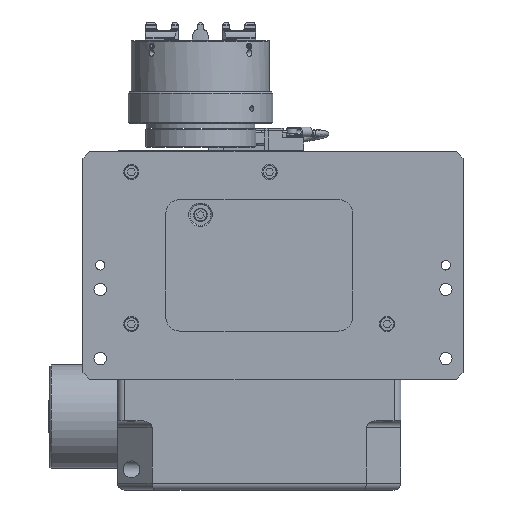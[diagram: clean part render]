
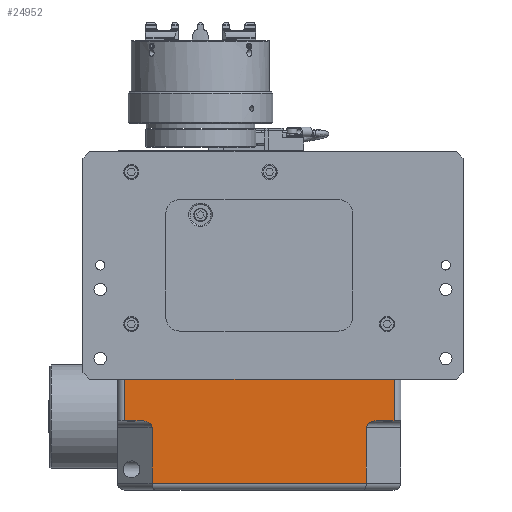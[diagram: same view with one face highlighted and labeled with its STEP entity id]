
A CAD part, front view. The second image highlights one B-rep face of the part: STEP entity #24952.
In plain terms, the highlighted planar face has unit normal (0, -1, 0).
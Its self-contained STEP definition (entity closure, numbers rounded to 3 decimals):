
#42 = LINE ( 'NONE', #56063, #55410 ) ;
#90 = DIRECTION ( 'NONE',  ( 0., 0., -1. ) ) ;
#103 = CARTESIAN_POINT ( 'NONE',  ( -42.071, -55., -195. ) ) ;
#984 = FACE_OUTER_BOUND ( 'NONE', #20038, .T. ) ;
#2949 = ORIENTED_EDGE ( 'NONE', *, *, #16123, .T. ) ;
#3165 = EDGE_CURVE ( 'NONE', #23919, #14636, #13870, .T. ) ;
#4286 = VECTOR ( 'NONE', #58955, 1000. ) ;
#4313 = CARTESIAN_POINT ( 'NONE',  ( 140., -55., -195. ) ) ;
#5710 = VERTEX_POINT ( 'NONE', #4313 ) ;
#6734 = CARTESIAN_POINT ( 'NONE',  ( -55., -55., -150. ) ) ;
#7346 = CARTESIAN_POINT ( 'NONE',  ( 122.929, -55., -195. ) ) ;
#7634 = EDGE_CURVE ( 'NONE', #15594, #55850, #22872, .T. ) ;
#8209 = DIRECTION ( 'NONE',  ( 0., 0., 1. ) ) ;
#8809 = VECTOR ( 'NONE', #8209, 1000. ) ;
#9905 = CARTESIAN_POINT ( 'NONE',  ( 120., -55., -240. ) ) ;
#10388 = VECTOR ( 'NONE', #34916, 1000. ) ;
#11972 = CARTESIAN_POINT ( 'NONE',  ( 127.071, -55., -195. ) ) ;
#12553 = CARTESIAN_POINT ( 'NONE',  ( 140., -55., -245. ) ) ;
#13870 = LINE ( 'NONE', #37576, #32929 ) ;
#13919 = EDGE_CURVE ( 'NONE', #21417, #44140, #40954, .T. ) ;
#14636 = VERTEX_POINT ( 'NONE', #43134 ) ;
#15490 = CARTESIAN_POINT ( 'NONE',  ( -35., -55., -197.071 ) ) ;
#15594 = VERTEX_POINT ( 'NONE', #18529 ) ;
#15687 = CARTESIAN_POINT ( 'NONE',  ( 120., -55., -200. ) ) ;
#16123 = EDGE_CURVE ( 'NONE', #5710, #23089, #45799, .T. ) ;
#17244 = CARTESIAN_POINT ( 'NONE',  ( -35., -55., -195. ) ) ;
#17364 = CARTESIAN_POINT ( 'NONE',  ( 120., -55., -195. ) ) ;
#18529 = CARTESIAN_POINT ( 'NONE',  ( 120., -55., -200. ) ) ;
#19203 = CARTESIAN_POINT ( 'NONE',  ( -37.929, -55., -195. ) ) ;
#19531 = ORIENTED_EDGE ( 'NONE', *, *, #3165, .T. ) ;
#20038 = EDGE_LOOP ( 'NONE', ( #32801, #49469, #52068, #33354, #42680, #2949, #55186, #19531, #24113, #59101 ) ) ;
#20050 = EDGE_CURVE ( 'NONE', #44140, #44829, #42564, .T. ) ;
#21417 = VERTEX_POINT ( 'NONE', #34083 ) ;
#21868 = VECTOR ( 'NONE', #37935, 1000. ) ;
#21949 = VECTOR ( 'NONE', #49560, 1000. ) ;
#22872 =( BOUNDED_CURVE ( )  B_SPLINE_CURVE ( 3, ( #15687, #54141, #7346, #11972 ),
 .UNSPECIFIED., .F., .F. ) 
 B_SPLINE_CURVE_WITH_KNOTS ( ( 4, 4 ),
 ( 0., 1.571 ),
 .UNSPECIFIED. ) 
 CURVE ( )  GEOMETRIC_REPRESENTATION_ITEM ( )  RATIONAL_B_SPLINE_CURVE ( ( 1., 0.805, 0.805, 1. ) ) 
 REPRESENTATION_ITEM ( '' )  );
#23089 = VERTEX_POINT ( 'NONE', #35222 ) ;
#23919 = VERTEX_POINT ( 'NONE', #6734 ) ;
#24113 = ORIENTED_EDGE ( 'NONE', *, *, #50378, .F. ) ;
#24952 = ADVANCED_FACE ( 'NONE', ( #984 ), #38259, .F. ) ;
#26702 = DIRECTION ( 'NONE',  ( -1., 0., 0. ) ) ;
#32425 = VERTEX_POINT ( 'NONE', #52788 ) ;
#32801 = ORIENTED_EDGE ( 'NONE', *, *, #13919, .T. ) ;
#32929 = VECTOR ( 'NONE', #42216, 1000. ) ;
#33354 = ORIENTED_EDGE ( 'NONE', *, *, #7634, .T. ) ;
#34083 = CARTESIAN_POINT ( 'NONE',  ( -35., -55., -200. ) ) ;
#34916 = DIRECTION ( 'NONE',  ( 0., 0., -1. ) ) ;
#35222 = CARTESIAN_POINT ( 'NONE',  ( 140., -55., -150. ) ) ;
#35844 = VECTOR ( 'NONE', #26702, 1000. ) ;
#37576 = CARTESIAN_POINT ( 'NONE',  ( -55., -55., -245. ) ) ;
#37664 = CARTESIAN_POINT ( 'NONE',  ( -35., -55., -200. ) ) ;
#37935 = DIRECTION ( 'NONE',  ( 1., 0., 0. ) ) ;
#38259 = PLANE ( 'NONE',  #52139 ) ;
#40954 = LINE ( 'NONE', #17244, #21949 ) ;
#41436 = CARTESIAN_POINT ( 'NONE',  ( 127.071, -55., -195. ) ) ;
#42216 = DIRECTION ( 'NONE',  ( 0., 0., -1. ) ) ;
#42564 = LINE ( 'NONE', #9905, #21868 ) ;
#42680 = ORIENTED_EDGE ( 'NONE', *, *, #59713, .F. ) ;
#43134 = CARTESIAN_POINT ( 'NONE',  ( -55., -55., -195. ) ) ;
#43929 =( BOUNDED_CURVE ( )  B_SPLINE_CURVE ( 3, ( #103, #19203, #15490, #37664 ),
 .UNSPECIFIED., .F., .F. ) 
 B_SPLINE_CURVE_WITH_KNOTS ( ( 4, 4 ),
 ( 4.712, 6.283 ),
 .UNSPECIFIED. ) 
 CURVE ( )  GEOMETRIC_REPRESENTATION_ITEM ( )  RATIONAL_B_SPLINE_CURVE ( ( 1., 0.805, 0.805, 1. ) ) 
 REPRESENTATION_ITEM ( '' )  );
#44140 = VERTEX_POINT ( 'NONE', #58586 ) ;
#44829 = VERTEX_POINT ( 'NONE', #59214 ) ;
#45053 = EDGE_CURVE ( 'NONE', #32425, #21417, #43929, .T. ) ;
#45799 = LINE ( 'NONE', #12553, #8809 ) ;
#46103 = LINE ( 'NONE', #55021, #35844 ) ;
#46862 = DIRECTION ( 'NONE',  ( -1., 0., 0. ) ) ;
#47199 = DIRECTION ( 'NONE',  ( 0., 1., 0. ) ) ;
#49469 = ORIENTED_EDGE ( 'NONE', *, *, #20050, .T. ) ;
#49560 = DIRECTION ( 'NONE',  ( 0., 0., -1. ) ) ;
#49679 = LINE ( 'NONE', #17364, #10388 ) ;
#49938 = EDGE_CURVE ( 'NONE', #23089, #23919, #42, .T. ) ;
#50378 = EDGE_CURVE ( 'NONE', #32425, #14636, #59251, .T. ) ;
#52068 = ORIENTED_EDGE ( 'NONE', *, *, #52430, .F. ) ;
#52139 = AXIS2_PLACEMENT_3D ( 'NONE', #57029, #47199, #90 ) ;
#52430 = EDGE_CURVE ( 'NONE', #15594, #44829, #49679, .T. ) ;
#52788 = CARTESIAN_POINT ( 'NONE',  ( -42.071, -55., -195. ) ) ;
#53752 = CARTESIAN_POINT ( 'NONE',  ( -35., -55., -195. ) ) ;
#54141 = CARTESIAN_POINT ( 'NONE',  ( 120., -55., -197.071 ) ) ;
#55021 = CARTESIAN_POINT ( 'NONE',  ( 120., -55., -195. ) ) ;
#55186 = ORIENTED_EDGE ( 'NONE', *, *, #49938, .T. ) ;
#55410 = VECTOR ( 'NONE', #46862, 1000. ) ;
#55850 = VERTEX_POINT ( 'NONE', #41436 ) ;
#56063 = CARTESIAN_POINT ( 'NONE',  ( 145., -55., -150. ) ) ;
#57029 = CARTESIAN_POINT ( 'NONE',  ( 145., -55., -245. ) ) ;
#58586 = CARTESIAN_POINT ( 'NONE',  ( -35., -55., -240. ) ) ;
#58955 = DIRECTION ( 'NONE',  ( -1., 0., 0. ) ) ;
#59101 = ORIENTED_EDGE ( 'NONE', *, *, #45053, .T. ) ;
#59214 = CARTESIAN_POINT ( 'NONE',  ( 120., -55., -240. ) ) ;
#59251 = LINE ( 'NONE', #53752, #4286 ) ;
#59713 = EDGE_CURVE ( 'NONE', #5710, #55850, #46103, .T. ) ;
